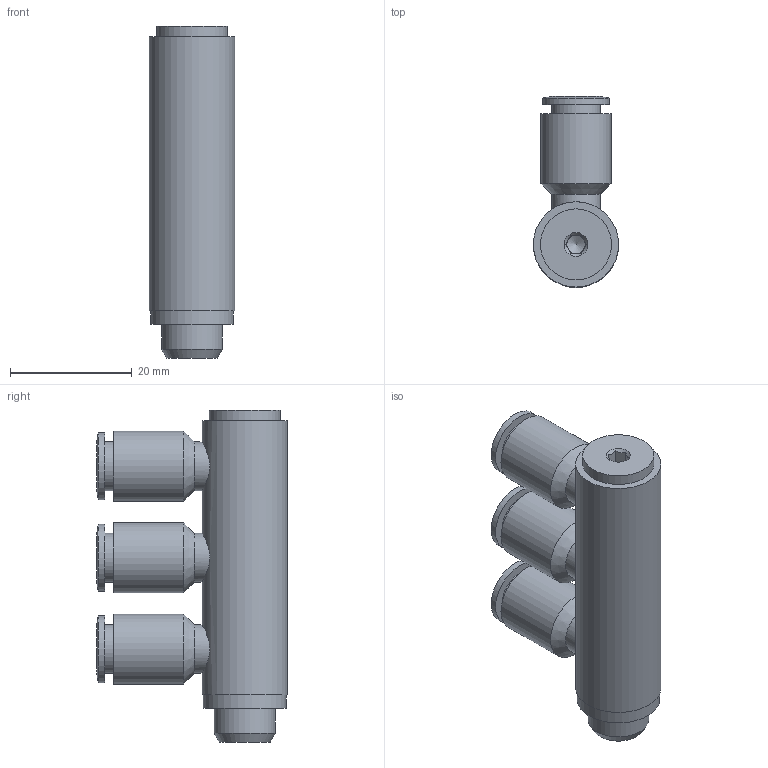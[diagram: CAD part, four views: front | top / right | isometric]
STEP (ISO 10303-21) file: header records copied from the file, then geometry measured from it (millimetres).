
FILE_DESCRIPTION((''),'2;1');
FILE_NAME('C:\Documents and Settings\rivolro1\Documenti\copia di Raccordi\PLASTICA\T34XXXX\T340618.stp','2007-11-03T09:17:13',('Rivolro1'),(''),'Autodesk Inventor 2008','Autodesk Inventor 2008','');
FILE_SCHEMA(('AUTOMOTIVE_DESIGN { 1 0 10303 214 1 1 1 1 }'));
Length unit declared in the file: millimetre
Products named in the file (1): T340618
Bounding box: 14 x 31.3 x 54.5 mm (x, y, z)
Volume: 10756.1 mm3; surface area: 6186.4 mm2
Topology: 1 solids, 1 shells, 64 faces, 124 edges, 80 vertices
Faces by surface type: plane 26, cylinder 19, bspline 12, cone 7
Full cylindrical faces by diameter (mm): 4.2 x3, 8 x6, 10 x1, 11 x3, 11.5 x3, 11.667 x1, 13.6 x1, 14 x1
Entity records: 1783 total; most frequent: CARTESIAN_POINT 585, DIRECTION 230, ORIENTED_EDGE 172, EDGE_LOOP 114, AXIS2_PLACEMENT_3D 106, EDGE_CURVE 86, VERTEX_POINT 74, FACE_OUTER_BOUND 64
